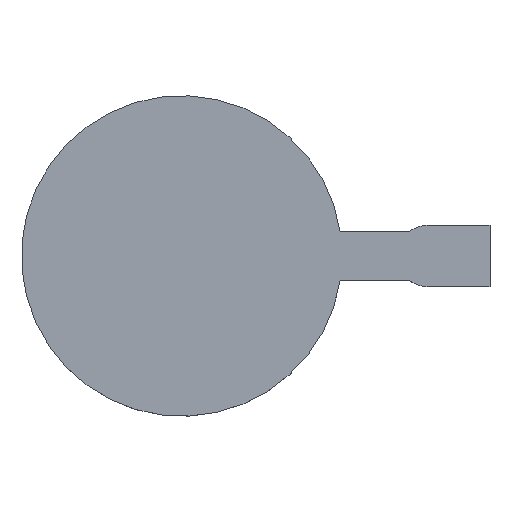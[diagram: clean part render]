
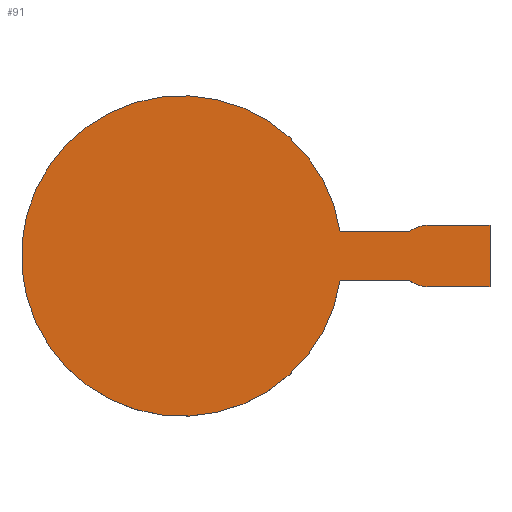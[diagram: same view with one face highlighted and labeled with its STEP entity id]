
A CAD part, top view. The second image highlights one B-rep face of the part: STEP entity #91.
In plain terms, the highlighted planar face has unit normal (0, 0, 1).
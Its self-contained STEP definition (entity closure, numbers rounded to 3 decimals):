
#91 = ADVANCED_FACE( '', ( #192 ), #193, .F. );
#192 = FACE_OUTER_BOUND( '', #299, .T. );
#193 = PLANE( '', #300 );
#299 = EDGE_LOOP( '', ( #487, #488, #489, #490, #491, #492, #493, #494 ) );
#300 = AXIS2_PLACEMENT_3D( '', #495, #496, #497 );
#487 = ORIENTED_EDGE( '', *, *, #625, .T. );
#488 = ORIENTED_EDGE( '', *, *, #600, .T. );
#489 = ORIENTED_EDGE( '', *, *, #597, .T. );
#490 = ORIENTED_EDGE( '', *, *, #610, .T. );
#491 = ORIENTED_EDGE( '', *, *, #614, .T. );
#492 = ORIENTED_EDGE( '', *, *, #570, .T. );
#493 = ORIENTED_EDGE( '', *, *, #620, .T. );
#494 = ORIENTED_EDGE( '', *, *, #633, .T. );
#495 = CARTESIAN_POINT( '', ( -125., -125., 2.5 ) );
#496 = DIRECTION( '', ( 0., 0., -1. ) );
#497 = DIRECTION( '', ( -1., 0., 0. ) );
#570 = EDGE_CURVE( '', #662, #660, #663, .T. );
#597 = EDGE_CURVE( '', #707, #705, #708, .T. );
#600 = EDGE_CURVE( '', #711, #707, #712, .T. );
#610 = EDGE_CURVE( '', #705, #726, #728, .T. );
#614 = EDGE_CURVE( '', #726, #662, #732, .T. );
#620 = EDGE_CURVE( '', #660, #740, #741, .T. );
#625 = EDGE_CURVE( '', #746, #711, #747, .T. );
#633 = EDGE_CURVE( '', #740, #746, #756, .T. );
#660 = VERTEX_POINT( '', #789 );
#662 = VERTEX_POINT( '', #792 );
#663 = LINE( '', #793, #794 );
#705 = VERTEX_POINT( '', #845 );
#707 = VERTEX_POINT( '', #848 );
#708 = CIRCLE( '', #849, 12.5 );
#711 = VERTEX_POINT( '', #853 );
#712 = LINE( '', #854, #855 );
#726 = VERTEX_POINT( '', #874 );
#728 = LINE( '', #877, #878 );
#732 = CIRCLE( '', #883, 65. );
#740 = VERTEX_POINT( '', #891 );
#741 = CIRCLE( '', #892, 12.5 );
#746 = VERTEX_POINT( '', #898 );
#747 = LINE( '', #899, #900 );
#756 = LINE( '', #910, #911 );
#789 = CARTESIAN_POINT( '', ( 92.5, -10., 2.5 ) );
#792 = CARTESIAN_POINT( '', ( 64.226, -10., 2.5 ) );
#793 = CARTESIAN_POINT( '', ( 0., -10., 2.5 ) );
#794 = VECTOR( '', #936, 1000. );
#845 = CARTESIAN_POINT( '', ( 92.5, 10., 2.5 ) );
#848 = CARTESIAN_POINT( '', ( 100., 12.5, 2.5 ) );
#849 = AXIS2_PLACEMENT_3D( '', #977, #978, #979 );
#853 = CARTESIAN_POINT( '', ( 125., 12.5, 2.5 ) );
#854 = CARTESIAN_POINT( '', ( 148.185, 12.5, 2.5 ) );
#855 = VECTOR( '', #981, 1000. );
#874 = CARTESIAN_POINT( '', ( 64.226, 10., 2.5 ) );
#877 = CARTESIAN_POINT( '', ( 100., 10., 2.5 ) );
#878 = VECTOR( '', #991, 1000. );
#883 = AXIS2_PLACEMENT_3D( '', #996, #997, #998 );
#891 = CARTESIAN_POINT( '', ( 100., -12.5, 2.5 ) );
#892 = AXIS2_PLACEMENT_3D( '', #1005, #1006, #1007 );
#898 = CARTESIAN_POINT( '', ( 125., -12.5, 2.5 ) );
#899 = CARTESIAN_POINT( '', ( 125., -125., 2.5 ) );
#900 = VECTOR( '', #1012, 1000. );
#910 = CARTESIAN_POINT( '', ( 100., -12.5, 2.5 ) );
#911 = VECTOR( '', #1023, 1000. );
#936 = DIRECTION( '', ( 1., 0., 0. ) );
#977 = CARTESIAN_POINT( '', ( 100., 0., 2.5 ) );
#978 = DIRECTION( '', ( 0., 0., 1. ) );
#979 = DIRECTION( '', ( 0., 1., 0. ) );
#981 = DIRECTION( '', ( -1., 0., 0. ) );
#991 = DIRECTION( '', ( -1., 0., 0. ) );
#996 = CARTESIAN_POINT( '', ( 0., 0., 2.5 ) );
#997 = DIRECTION( '', ( 0., 0., 1. ) );
#998 = DIRECTION( '', ( 1., 0., 0. ) );
#1005 = CARTESIAN_POINT( '', ( 100., 0., 2.5 ) );
#1006 = DIRECTION( '', ( 0., 0., 1. ) );
#1007 = DIRECTION( '', ( 0., 1., 0. ) );
#1012 = DIRECTION( '', ( 0., 1., 0. ) );
#1023 = DIRECTION( '', ( 1., 0., 0. ) );
